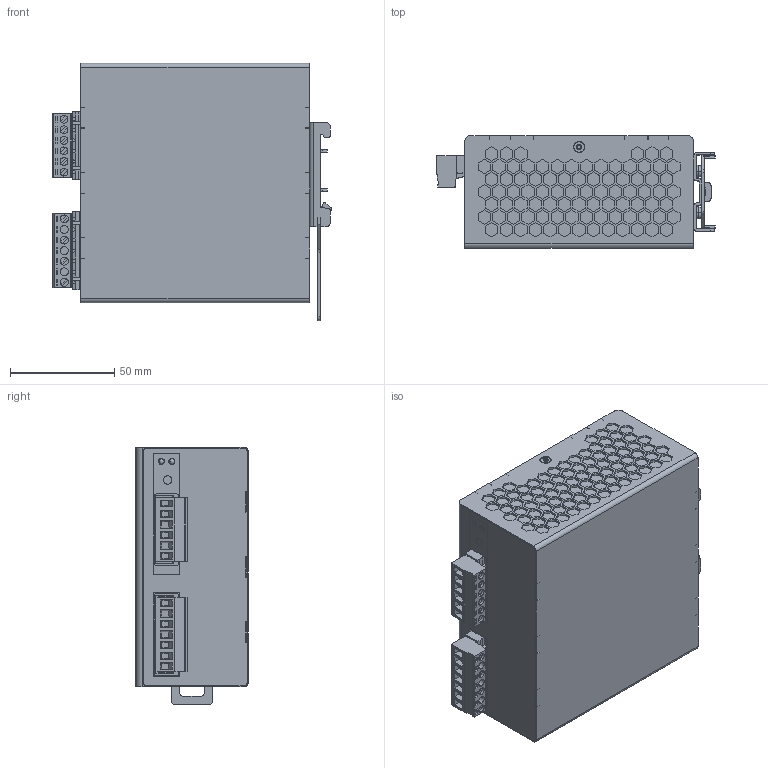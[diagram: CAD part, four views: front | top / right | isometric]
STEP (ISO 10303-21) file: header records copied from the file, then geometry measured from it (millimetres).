
FILE_DESCRIPTION (( 'STEP AP214' ), '1' );
FILE_NAME ('NPSW240_3D_light.STEP', '2016-04-27T12:09:38', ( 'miky' ), ( 'Microsoft' ), 'SwSTEP 2.0', 'SolidWorks 2014', '' );
FILE_SCHEMA (( 'AUTOMOTIVE_DESIGN' ));
Length unit declared in the file: millimetre
Products named in the file (1): NPSW240_3D_light
Bounding box: 133.99 x 54 x 123.7 mm (x, y, z)
Volume: 692079.9 mm3; surface area: 68740.2 mm2
Topology: 1 solids, 5 shells, 2447 faces, 6569 edges, 4316 vertices
Faces by surface type: plane 2079, cylinder 312, cone 46, torus 4, bspline 4, sphere 2
Entity records: 100773 total; most frequent: CARTESIAN_POINT 13982, ORIENTED_EDGE 13126, DIRECTION 12165, EDGE_CURVE 6563, VECTOR 5659, LINE 5659, VERTEX_POINT 4312, AXIS2_PLACEMENT_3D 3253
